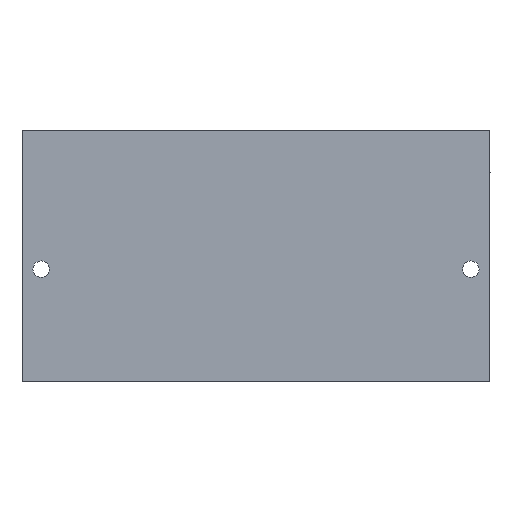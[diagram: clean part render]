
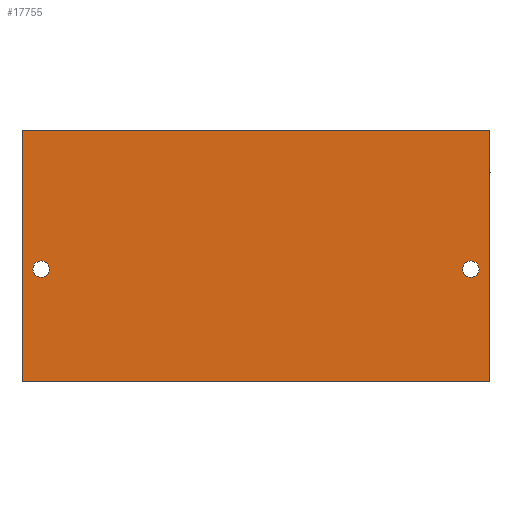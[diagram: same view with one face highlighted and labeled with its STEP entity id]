
A CAD part, front view. The second image highlights one B-rep face of the part: STEP entity #17755.
In plain terms, the highlighted planar face has unit normal (0, -1, 0).
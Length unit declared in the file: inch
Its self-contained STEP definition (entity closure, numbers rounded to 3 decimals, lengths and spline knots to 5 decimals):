
#565 = ORIENTED_EDGE ( 'NONE', *, *, #3229, .F. ) ;
#954 = DIRECTION ( 'NONE',  ( 0., 0., 1. ) ) ;
#959 = DIRECTION ( 'NONE',  ( 0., 1., 0. ) ) ;
#984 = CARTESIAN_POINT ( 'NONE',  ( 0.4, 0., -2.9 ) ) ;
#1088 = ORIENTED_EDGE ( 'NONE', *, *, #4092, .F. ) ;
#1205 = CIRCLE ( 'NONE', #8859, 0.172 ) ;
#1361 = ORIENTED_EDGE ( 'NONE', *, *, #8806, .T. ) ;
#1393 = DIRECTION ( 'NONE',  ( 0., 0., 1. ) ) ;
#1640 = VERTEX_POINT ( 'NONE', #8096 ) ;
#1879 = CARTESIAN_POINT ( 'NONE',  ( 9.35, 0., -3.072 ) ) ;
#2104 = CARTESIAN_POINT ( 'NONE',  ( 0.4, 0., -2.9 ) ) ;
#2991 = FACE_BOUND ( 'NONE', #14746, .T. ) ;
#3026 = PLANE ( 'NONE',  #7946 ) ;
#3131 = CARTESIAN_POINT ( 'NONE',  ( 0.4, 0., -3.072 ) ) ;
#3229 = EDGE_CURVE ( 'NONE', #17479, #19301, #3904, .T. ) ;
#3287 = CARTESIAN_POINT ( 'NONE',  ( 9.75, 0., 0. ) ) ;
#3310 = DIRECTION ( 'NONE',  ( 0., 0., -1. ) ) ;
#3749 = DIRECTION ( 'NONE',  ( 0., 0., 1. ) ) ;
#3904 = LINE ( 'NONE', #15396, #11785 ) ;
#4031 = EDGE_CURVE ( 'NONE', #13661, #19301, #19149, .T. ) ;
#4092 = EDGE_CURVE ( 'NONE', #7864, #17479, #10303, .T. ) ;
#4320 = EDGE_CURVE ( 'NONE', #13997, #16161, #6362, .T. ) ;
#4674 = DIRECTION ( 'NONE',  ( 0., 1., 0. ) ) ;
#4697 = EDGE_CURVE ( 'NONE', #1640, #4937, #16607, .T. ) ;
#4762 = DIRECTION ( 'NONE',  ( 0., 0., -1. ) ) ;
#4780 = CARTESIAN_POINT ( 'NONE',  ( 0., 0., 0. ) ) ;
#4937 = VERTEX_POINT ( 'NONE', #1879 ) ;
#6362 = CIRCLE ( 'NONE', #14392, 0.172 ) ;
#6745 = FACE_OUTER_BOUND ( 'NONE', #8057, .T. ) ;
#7864 = VERTEX_POINT ( 'NONE', #19184 ) ;
#7946 = AXIS2_PLACEMENT_3D ( 'NONE', #15499, #4674, #15626 ) ;
#8057 = EDGE_LOOP ( 'NONE', ( #20531, #565, #1088, #1361 ) ) ;
#8096 = CARTESIAN_POINT ( 'NONE',  ( 9.35, 0., -2.728 ) ) ;
#8109 = AXIS2_PLACEMENT_3D ( 'NONE', #20301, #10907, #1393 ) ;
#8806 = EDGE_CURVE ( 'NONE', #7864, #13661, #14485, .T. ) ;
#8853 = CARTESIAN_POINT ( 'NONE',  ( 0., 0., -5.25 ) ) ;
#8859 = AXIS2_PLACEMENT_3D ( 'NONE', #2104, #13184, #3749 ) ;
#10080 = DIRECTION ( 'NONE',  ( -1., 0., 0. ) ) ;
#10259 = DIRECTION ( 'NONE',  ( 0., 0., 1. ) ) ;
#10303 = LINE ( 'NONE', #3287, #18671 ) ;
#10328 = DIRECTION ( 'NONE',  ( 0., 1., 0. ) ) ;
#10585 = CARTESIAN_POINT ( 'NONE',  ( 9.75, 0., 0. ) ) ;
#10705 = CARTESIAN_POINT ( 'NONE',  ( 9.35, 0., -2.9 ) ) ;
#10830 = VECTOR ( 'NONE', #10080, 39.37008 ) ;
#10907 = DIRECTION ( 'NONE',  ( 0., 1., 0. ) ) ;
#11785 = VECTOR ( 'NONE', #15575, 39.37008 ) ;
#12131 = CARTESIAN_POINT ( 'NONE',  ( 0.4, 0., -2.728 ) ) ;
#13184 = DIRECTION ( 'NONE',  ( 0., 1., 0. ) ) ;
#13328 = CARTESIAN_POINT ( 'NONE',  ( 9.75, 0., -5.25 ) ) ;
#13661 = VERTEX_POINT ( 'NONE', #16315 ) ;
#13668 = AXIS2_PLACEMENT_3D ( 'NONE', #10705, #10328, #10259 ) ;
#13997 = VERTEX_POINT ( 'NONE', #12131 ) ;
#14392 = AXIS2_PLACEMENT_3D ( 'NONE', #984, #959, #954 ) ;
#14485 = LINE ( 'NONE', #10585, #10830 ) ;
#14746 = EDGE_LOOP ( 'NONE', ( #17307, #19762 ) ) ;
#15050 = CIRCLE ( 'NONE', #8109, 0.172 ) ;
#15092 = ORIENTED_EDGE ( 'NONE', *, *, #4320, .T. ) ;
#15396 = CARTESIAN_POINT ( 'NONE',  ( 9.75, 0., -5.25 ) ) ;
#15459 = VECTOR ( 'NONE', #4762, 39.37008 ) ;
#15499 = CARTESIAN_POINT ( 'NONE',  ( 9.75, 0., 0. ) ) ;
#15575 = DIRECTION ( 'NONE',  ( -1., 0., 0. ) ) ;
#15626 = DIRECTION ( 'NONE',  ( 0., 0., 1. ) ) ;
#15737 = EDGE_LOOP ( 'NONE', ( #15092, #16817 ) ) ;
#16161 = VERTEX_POINT ( 'NONE', #3131 ) ;
#16315 = CARTESIAN_POINT ( 'NONE',  ( 0., 0., 0. ) ) ;
#16607 = CIRCLE ( 'NONE', #13668, 0.172 ) ;
#16817 = ORIENTED_EDGE ( 'NONE', *, *, #17434, .T. ) ;
#17307 = ORIENTED_EDGE ( 'NONE', *, *, #4697, .T. ) ;
#17434 = EDGE_CURVE ( 'NONE', #16161, #13997, #1205, .T. ) ;
#17479 = VERTEX_POINT ( 'NONE', #13328 ) ;
#17719 = EDGE_CURVE ( 'NONE', #4937, #1640, #15050, .T. ) ;
#17755 = ADVANCED_FACE ( 'NONE', ( #19235, #2991, #6745 ), #3026, .F. ) ;
#18671 = VECTOR ( 'NONE', #3310, 39.37008 ) ;
#19149 = LINE ( 'NONE', #4780, #15459 ) ;
#19184 = CARTESIAN_POINT ( 'NONE',  ( 9.75, 0., 0. ) ) ;
#19235 = FACE_BOUND ( 'NONE', #15737, .T. ) ;
#19301 = VERTEX_POINT ( 'NONE', #8853 ) ;
#19762 = ORIENTED_EDGE ( 'NONE', *, *, #17719, .T. ) ;
#20301 = CARTESIAN_POINT ( 'NONE',  ( 9.35, 0., -2.9 ) ) ;
#20531 = ORIENTED_EDGE ( 'NONE', *, *, #4031, .T. ) ;
